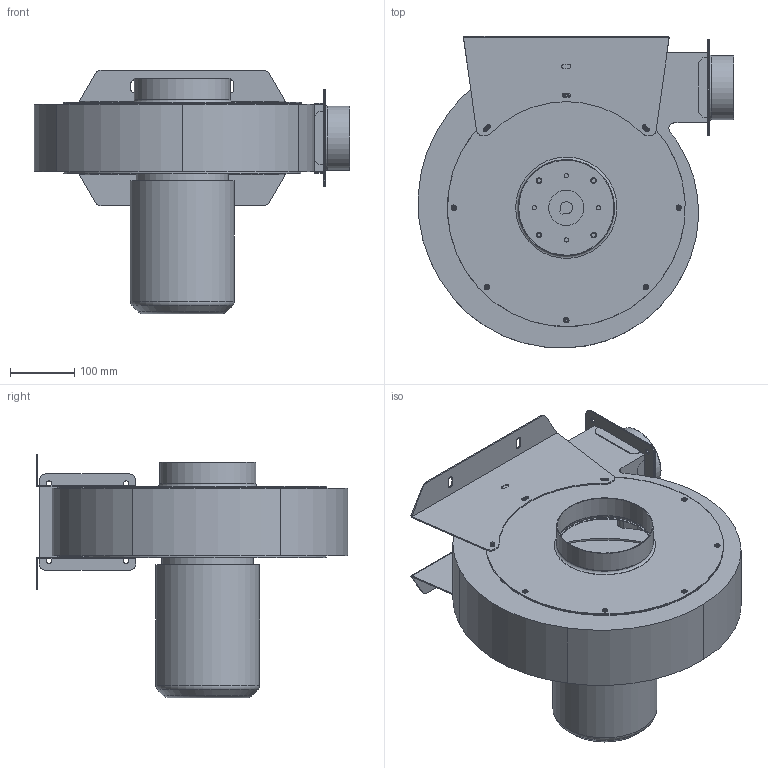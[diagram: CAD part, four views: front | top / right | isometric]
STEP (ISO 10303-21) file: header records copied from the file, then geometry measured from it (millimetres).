
FILE_DESCRIPTION(/* description */ ('Unknown'),/* implementation_level */ '2;1');
FILE_NAME(/* name */ 'CYT325A2P3Q-EG 型錄',/* time_stamp */ '2026-06-08T11:10:16+08:00',/* author */ ('Unknown'),/* organization */ ('Unknown'),/* preprocessor_version */ 'ST-DEVELOPER v20',/* originating_system */ 'Solid Edge',/* authorisation */ 'Unknown');
FILE_SCHEMA (('AUTOMOTIVE_DESIGN {1 0 10303 214 3 1 1}'));
Length unit declared in the file: millimetre
Products named in the file (9): CYT325A2P3Q-EG 型; CYT325##01ab; CYT325-08; CYT320-04-6''; CYT325-06V; JM1802PV-EG & JM1802P3V-EG 尺寸; CYT325-07; CYT325##02; CYT210-05-4''
Assembly tree (7 placements, depth 2):
  CYT325A2P3Q-EG 型
    CYT325##01ab
    CYT325-08
    CYT325-06V
    JM1802PV-EG & JM1802P3V-EG 尺寸
    CYT325-07  x2
    CYT325##02
  CYT320-04-6''
  CYT210-05-4''
Bounding box: 491.12 x 485 x 378.7 mm (x, y, z)
Volume: 6024801.3 mm3; surface area: 1669617.6 mm2
Topology: 9 solids, 9 shells, 301 faces, 761 edges, 495 vertices
Faces by surface type: cylinder 160, plane 134, torus 6, cone 1
Full cylindrical faces by diameter (mm): 3.1 x8, 6.4 x4, 6.5 x20, 8.5 x20, 55 x1, 98 x1, 100 x1, 143.5 x1, 148 x1, 150 x2, 162 x1, 336 x2, 370 x3
Entity records: 7644 total; most frequent: DIRECTION 1349, CARTESIAN_POINT 1223, ORIENTED_EDGE 1108, EDGE_CURVE 554, AXIS2_PLACEMENT_3D 533, EDGE_LOOP 447, FACE_BOUND 447, VERTEX_POINT 407
